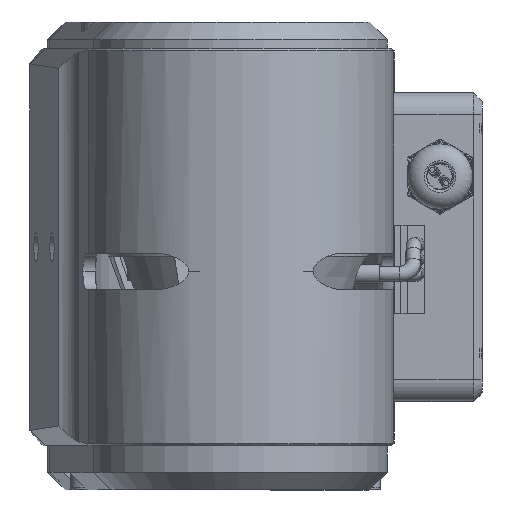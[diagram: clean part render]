
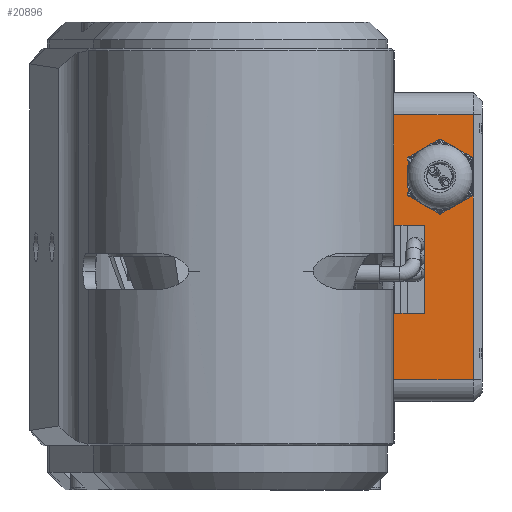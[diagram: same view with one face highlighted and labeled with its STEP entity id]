
A CAD part, left-side view. The second image highlights one B-rep face of the part: STEP entity #20896.
In plain terms, the highlighted planar face has unit normal (-1, 0.001, 0).
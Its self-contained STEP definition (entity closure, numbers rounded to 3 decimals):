
#108 = EDGE_CURVE ( 'NONE', #21007, #18385, #4546, .T. ) ;
#544 = CARTESIAN_POINT ( 'NONE',  ( -43.901, -19.934, -8. ) ) ;
#774 = VERTEX_POINT ( 'NONE', #11094 ) ;
#1219 = EDGE_CURVE ( 'NONE', #10015, #33444, #11756, .T. ) ;
#2515 = CARTESIAN_POINT ( 'NONE',  ( -43.899, -17.934, -3. ) ) ;
#2801 = ORIENTED_EDGE ( 'NONE', *, *, #13002, .F. ) ;
#2805 = VECTOR ( 'NONE', #26654, 1000. ) ;
#4546 = LINE ( 'NONE', #14902, #12412 ) ;
#4726 = DIRECTION ( 'NONE',  ( -0.001, -1., 0. ) ) ;
#5066 = DIRECTION ( 'NONE',  ( 0.001, 1., 0. ) ) ;
#5332 = ORIENTED_EDGE ( 'NONE', *, *, #6621, .T. ) ;
#5630 = LINE ( 'NONE', #16293, #2805 ) ;
#5823 = FACE_OUTER_BOUND ( 'NONE', #18267, .T. ) ;
#5860 = CARTESIAN_POINT ( 'NONE',  ( -43.883, -6.934, 12. ) ) ;
#6621 = EDGE_CURVE ( 'NONE', #33448, #9557, #9303, .T. ) ;
#7123 = ORIENTED_EDGE ( 'NONE', *, *, #29452, .T. ) ;
#7239 = VECTOR ( 'NONE', #27133, 1000. ) ;
#7903 = VECTOR ( 'NONE', #19785, 1000. ) ;
#8553 = DIRECTION ( 'NONE',  ( 0., 0., -1. ) ) ;
#9303 = LINE ( 'NONE', #27496, #26854 ) ;
#9557 = VERTEX_POINT ( 'NONE', #31408 ) ;
#10015 = VERTEX_POINT ( 'NONE', #17922 ) ;
#10107 = EDGE_CURVE ( 'NONE', #26833, #10015, #13345, .T. ) ;
#10632 = DIRECTION ( 'NONE',  ( 0., 0., -1. ) ) ;
#10658 = CARTESIAN_POINT ( 'NONE',  ( -43.899, -17.934, -8. ) ) ;
#10691 = EDGE_CURVE ( 'NONE', #18385, #26833, #5630, .T. ) ;
#11094 = CARTESIAN_POINT ( 'NONE',  ( -43.888, -10.434, 36.975 ) ) ;
#11756 = LINE ( 'NONE', #14126, #29232 ) ;
#12412 = VECTOR ( 'NONE', #4726, 1000. ) ;
#13002 = EDGE_CURVE ( 'NONE', #774, #774, #19915, .T. ) ;
#13184 = VECTOR ( 'NONE', #5066, 1000. ) ;
#13345 = LINE ( 'NONE', #15769, #13184 ) ;
#14126 = CARTESIAN_POINT ( 'NONE',  ( -43.873, 0.066, -8. ) ) ;
#14547 = VERTEX_POINT ( 'NONE', #2515 ) ;
#14902 = CARTESIAN_POINT ( 'NONE',  ( -43.834, 27.415, 32. ) ) ;
#15678 = PLANE ( 'NONE',  #16495 ) ;
#15769 = CARTESIAN_POINT ( 'NONE',  ( -43.834, 27.415, 12. ) ) ;
#16293 = CARTESIAN_POINT ( 'NONE',  ( -43.883, -6.934, 12. ) ) ;
#16353 = ORIENTED_EDGE ( 'NONE', *, *, #10691, .T. ) ;
#16495 = AXIS2_PLACEMENT_3D ( 'NONE', #544, #26014, #21217 ) ;
#16763 = CARTESIAN_POINT ( 'NONE',  ( -43.873, 0.066, -8. ) ) ;
#17922 = CARTESIAN_POINT ( 'NONE',  ( -43.873, 0.066, 12. ) ) ;
#18267 = EDGE_LOOP ( 'NONE', ( #23155, #28495, #24244, #7123, #5332, #30006, #28569, #16353 ) ) ;
#18385 = VERTEX_POINT ( 'NONE', #33229 ) ;
#18847 = FACE_BOUND ( 'NONE', #24914, .T. ) ;
#19122 = VECTOR ( 'NONE', #26636, 1000. ) ;
#19258 = CARTESIAN_POINT ( 'NONE',  ( -43.873, 0.066, 32. ) ) ;
#19785 = DIRECTION ( 'NONE',  ( -0.001, -1., 0. ) ) ;
#19915 = CIRCLE ( 'NONE', #31850, 6.025 ) ;
#20089 = EDGE_CURVE ( 'NONE', #33444, #14547, #30312, .T. ) ;
#20896 = ADVANCED_FACE ( 'NONE', ( #18847, #5823 ), #15678, .F. ) ;
#21007 = VERTEX_POINT ( 'NONE', #19258 ) ;
#21166 = DIRECTION ( 'NONE',  ( -1., 0.001, 0. ) ) ;
#21217 = DIRECTION ( 'NONE',  ( 0., 0., 1. ) ) ;
#23155 = ORIENTED_EDGE ( 'NONE', *, *, #10107, .T. ) ;
#24014 = EDGE_CURVE ( 'NONE', #9557, #21007, #24736, .T. ) ;
#24244 = ORIENTED_EDGE ( 'NONE', *, *, #20089, .T. ) ;
#24736 = LINE ( 'NONE', #16763, #7239 ) ;
#24914 = EDGE_LOOP ( 'NONE', ( #2801 ) ) ;
#26014 = DIRECTION ( 'NONE',  ( 1., -0.001, 0. ) ) ;
#26636 = DIRECTION ( 'NONE',  ( 0., 0., 1. ) ) ;
#26654 = DIRECTION ( 'NONE',  ( 0., 0., -1. ) ) ;
#26833 = VERTEX_POINT ( 'NONE', #5860 ) ;
#26854 = VECTOR ( 'NONE', #27322, 1000. ) ;
#27133 = DIRECTION ( 'NONE',  ( 0., 0., -1. ) ) ;
#27322 = DIRECTION ( 'NONE',  ( 0.001, 1., 0. ) ) ;
#27496 = CARTESIAN_POINT ( 'NONE',  ( -43.901, -19.934, 57. ) ) ;
#28033 = CARTESIAN_POINT ( 'NONE',  ( -43.899, -17.934, 57. ) ) ;
#28495 = ORIENTED_EDGE ( 'NONE', *, *, #1219, .T. ) ;
#28569 = ORIENTED_EDGE ( 'NONE', *, *, #108, .T. ) ;
#28663 = CARTESIAN_POINT ( 'NONE',  ( -43.888, -10.434, 43. ) ) ;
#29171 = LINE ( 'NONE', #10658, #19122 ) ;
#29232 = VECTOR ( 'NONE', #8553, 1000. ) ;
#29452 = EDGE_CURVE ( 'NONE', #14547, #33448, #29171, .T. ) ;
#30006 = ORIENTED_EDGE ( 'NONE', *, *, #24014, .T. ) ;
#30312 = LINE ( 'NONE', #32380, #7903 ) ;
#30548 = CARTESIAN_POINT ( 'NONE',  ( -43.873, 0.066, -3. ) ) ;
#31408 = CARTESIAN_POINT ( 'NONE',  ( -43.873, 0.066, 57. ) ) ;
#31850 = AXIS2_PLACEMENT_3D ( 'NONE', #28663, #21166, #10632 ) ;
#32380 = CARTESIAN_POINT ( 'NONE',  ( -43.901, -19.934, -3. ) ) ;
#33229 = CARTESIAN_POINT ( 'NONE',  ( -43.883, -6.934, 32. ) ) ;
#33444 = VERTEX_POINT ( 'NONE', #30548 ) ;
#33448 = VERTEX_POINT ( 'NONE', #28033 ) ;
